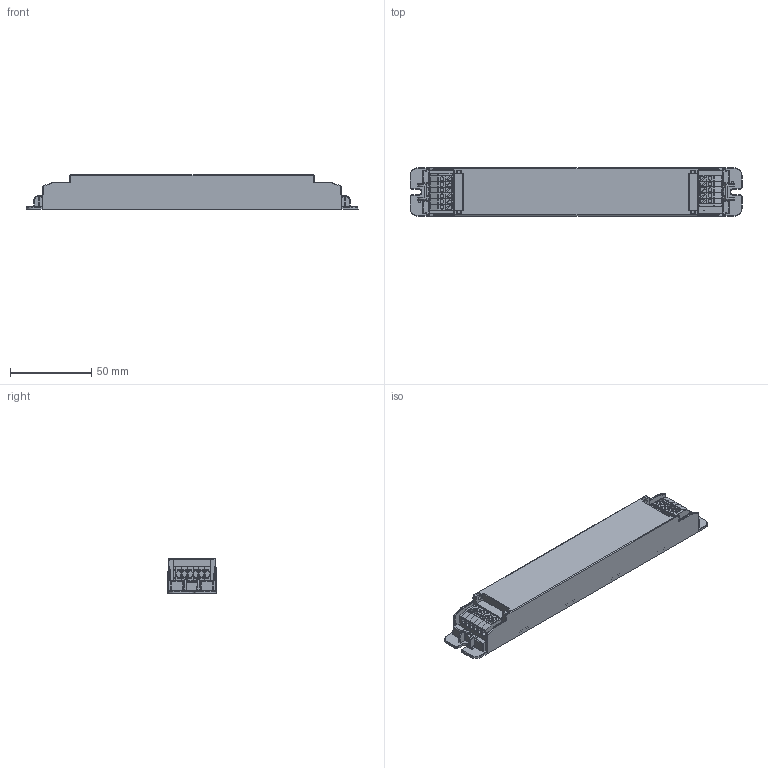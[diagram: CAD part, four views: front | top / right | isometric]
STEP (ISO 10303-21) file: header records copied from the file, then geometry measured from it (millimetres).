
FILE_DESCRIPTION(/* description */ (''),/* implementation_level */ '2;1');
FILE_NAME(/* name */ 'C:\Work\Projects\2011Projects\SR BOX\Europe\Housing\Build In.stp',/* time_stamp */ '2017-03-10T15:22:56+08:00',/* author */ ('cnh69992'),/* organization */ (''),/* preprocessor_version */ 'ST-DEVELOPER v15.2',/* originating_system */ 'Autodesk Inventor 2014',/* authorisation */ '');
FILE_SCHEMA (('AUTOMOTIVE_DESIGN { 1 0 10303 214 3 1 1 }'));
Products named in the file (167): Upper Cover 178mm; Lower Cover 178mm; 442240945411; 442240953824.pcb_Outline; tld_icct_dia010_sr_b_1, icct_dia010_wav_1; pkg_sot323_b_1, 934021860115_5; res_sllf160805_t_1, 442240105013_7; res_sllf1005035_x_1, 442240857921_10; cap_sllf160810_b_1, 442240204011_12; trf_180180130_e060080_04p_d06_m_1, 822264647941_14; res_sllf160805_b_1, 442240915671_16; cep_d085140085_bend9928_ld050_0350_m_2, 442240965041_18; dio_sub_sma_tase_b_1, 932232379662_20; cep_svcy080105_x_1, 202002191983_22; cap_sllf321614_b_1, 442241001831_24; cap_sllf160810_b_1, 442240843441_26; cap_safe_109044094_lda060_0750_r_1, 202233000266_28; icc_so16e127rs225_t_1, 932227047668_30; res_sllf160805_b_1, 442240105025_32; barcode_057x057_silk_cl5_1, PartNo_34; cep_d085150_ld050_0350_m_1, 202203100916_36; dio_sub_sma_tase_b_1, 932227274662_38; cap_sllf100505_x_1, 442240858281_40; dio_scp52252917_b_2, 932229112668_42; ind_sllf160810_t_1, 242254990226_44; res_sllf160805_b_1, 442240105009_46; pkg_2-7k1a-dpak_tosh_b_1, 932232856668_48; res_sllf321607_b_1, 212010800394_50; dio_sod323_t_1, 932227099685_52; res_sllf321607_t_1, 442240102014_54; dio_sub_sma_tase_t_1, 932232379662_60; dio_sod323_b_1, 932215780685_62; cap_sllf100505_x_1, 442240858551_64; res_sllf1005035_x_1, 442240843921_66; pkg_sot89_b_1, 938800326668_68; pkg_sot23-5l_st_t_1, 932221346685_70; res_sllf160805_b_1, 442240105007_72; cap_sllf321619_b_1, 442240858161_74; cap_sllf321614_b_1, 442240943391_76; res_sllf160805_b_1, 442240105008_79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
Bounding box: 204 x 30.05 x 21 mm (x, y, z)
Volume: 70949.3 mm3; surface area: 85059 mm2
Topology: 431 solids, 431 shells, 4358 faces, 10115 edges, 6650 vertices
Faces by surface type: plane 3548, cylinder 704, bspline 58, sphere 28, torus 10, cone 10
Full cylindrical faces by diameter (mm): 0.3 x27, 0.45 x145, 0.8 x6, 1 x14, 1.1 x24, 1.2 x13, 1.6 x114, 2.3 x11, 2.5 x20, 8.5 x2
Entity records: 80108 total; most frequent: CARTESIAN_POINT 14465, DIRECTION 13124, ORIENTED_EDGE 12002, EDGE_CURVE 6001, LINE 4962, VECTOR 4962, AXIS2_PLACEMENT_3D 4081, VERTEX_POINT 4072
